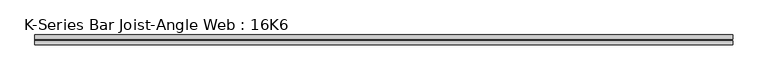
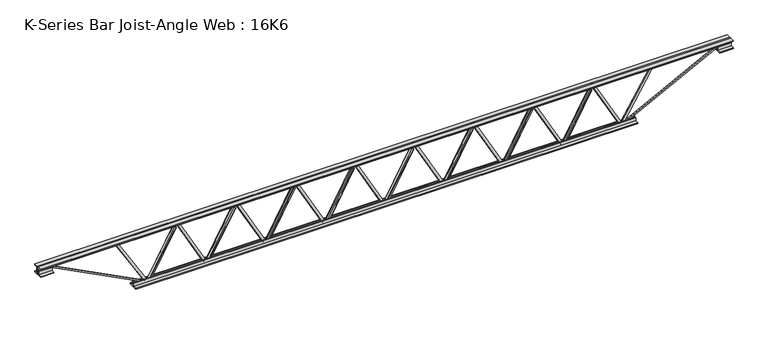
"""IFC4 building model written with IfcOpenShell, lengths in millimetres: beam geometry, K-Series Bar Joist-Angle Web : 16K6."""

from ifc_helpers import new_model, si_unit, frame, origin, place, context, project, spatial, polyline, outline, extrude, faceted_brep, source, transform, mapped, element, save


def k_series_bar_joist_angle_web_16k6_b8d877ef(model_context):
    return source(origin(), model_context, "Body", "SolidModel", [
        extrude(outline(polyline([(-4.75, 4.7625001), (-4.75, 0.0), (-17.45, 0.0), (-17.45, 4.7625001), (-4.75, 4.7625001)])), frame((1299.3314531, 0.0, -164.9), z_axis=(-0.48142361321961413, 0.0, 0.8764880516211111), x_axis=(0.0, -1.0, 0.0)), (0.0, 0.0, 1.0), 376.2743821),
        extrude(outline(polyline([(-199.825, 1330.5), (-180.775, 1330.5), (-180.775, 1329.7854905), (199.825, 1120.7354905), (199.825, 1102.4), (180.775, 1102.4), (180.775, 1109.4645095), (-199.825, 1318.5145095), (-199.825, 1330.5)])), frame((0.0, 0.0, 0.0), z_axis=(0.0, 1.0, 0.0), x_axis=(0.0, 0.0, 1.0)), (0.0, 0.0, 1.0), 4.75),
        faceted_brep([(887.0, 0.0, -180.775), (887.0, 0.0, -199.825), (887.0, -4.75, -199.825), (887.0, -4.75, -180.775), (887.7145095, 0.0, -180.775), (1096.7645095, 0.0, 199.825), (1115.1, 0.0, 199.825), (1115.1, 0.0, 180.775), (1108.0354905, 0.0, 180.775), (898.9854905, 0.0, -199.825), (898.9854905, -4.75, -199.825), (918.1685469, -4.75, -164.9), (913.9942725, -4.75, -162.60722), (1095.1416451, -4.75, 167.19278), (1099.3159194, -4.75, 164.9), (1108.0354905, -4.75, 180.775), (1115.1, -4.75, 180.775), (1115.1, -4.75, 199.825), (1096.7645095, -4.75, 199.825), (887.7145095, -4.75, -180.775), (1099.3159194, -17.4625, 164.9), (918.1685469, -17.4625, -164.9), (913.9942725, -17.4625, -162.60722), (1095.1416451, -17.4625, 167.19278)], [[[0, 1, 2, 3]], [[1, 0, 4, 5, 6, 7, 8, 9]], [[2, 1, 9, 10]], [[3, 2, 10, 11, 12, 13, 14, 15, 16, 17, 18, 19]], [[0, 3, 19, 4]], [[9, 8, 15, 14, 20, 21, 11, 10]], [[5, 4, 19, 18]], [[7, 6, 17, 16]], [[8, 7, 16, 15]], [[6, 5, 18, 17]], [[21, 22, 12, 11]], [[20, 14, 13, 23]], [[22, 21, 20, 23]], [[12, 22, 23, 13]]]),
        extrude(outline(polyline([(-4.75, 4.7625001), (-4.75, 0.0), (-17.45, 0.0), (-17.45, 4.7625001), (-4.75, 4.7625001)])), frame((855.8314531, 0.0, -164.9), z_axis=(-0.48142361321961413, 0.0, 0.8764880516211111), x_axis=(0.0, -1.0, 0.0)), (0.0, 0.0, 1.0), 376.2743821),
        extrude(outline(polyline([(-199.825, 887.0), (-180.775, 887.0), (-180.775, 886.2854905), (199.825, 677.2354905), (199.825, 658.9), (180.775, 658.9), (180.775, 665.9645095), (-199.825, 875.0145095), (-199.825, 887.0)])), frame((0.0, 0.0, 0.0), z_axis=(0.0, 1.0, 0.0), x_axis=(0.0, 0.0, 1.0)), (0.0, 0.0, 1.0), 4.75),
        faceted_brep([(443.5, 0.0, -180.775), (443.5, 0.0, -199.825), (443.5, -4.75, -199.825), (443.5, -4.75, -180.775), (444.2145095, 0.0, -180.775), (653.2645095, 0.0, 199.825), (671.6, 0.0, 199.825), (671.6, 0.0, 180.775), (664.5354905, 0.0, 180.775), (455.4854905, 0.0, -199.825), (455.4854905, -4.75, -199.825), (474.6685469, -4.75, -164.9), (470.4942725, -4.75, -162.60722), (651.6416451, -4.75, 167.19278), (655.8159194, -4.75, 164.9), (664.5354905, -4.75, 180.775), (671.6, -4.75, 180.775), (671.6, -4.75, 199.825), (653.2645095, -4.75, 199.825), (444.2145095, -4.75, -180.775), (655.8159194, -17.4625, 164.9), (474.6685469, -17.4625, -164.9), (470.4942725, -17.4625, -162.60722), (651.6416451, -17.4625, 167.19278)], [[[0, 1, 2, 3]], [[1, 0, 4, 5, 6, 7, 8, 9]], [[2, 1, 9, 10]], [[3, 2, 10, 11, 12, 13, 14, 15, 16, 17, 18, 19]], [[0, 3, 19, 4]], [[9, 8, 15, 14, 20, 21, 11, 10]], [[5, 4, 19, 18]], [[7, 6, 17, 16]], [[8, 7, 16, 15]], [[6, 5, 18, 17]], [[21, 22, 12, 11]], [[20, 14, 13, 23]], [[22, 21, 20, 23]], [[12, 22, 23, 13]]]),
        extrude(outline(polyline([(-4.75, 4.7625001), (-4.75, 0.0), (-17.45, 0.0), (-17.45, 4.7625001), (-4.75, 4.7625001)])), frame((412.3314531, 0.0, -164.9), z_axis=(-0.48142361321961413, 0.0, 0.8764880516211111), x_axis=(0.0, -1.0, 0.0)), (0.0, 0.0, 1.0), 376.2743821),
        extrude(outline(polyline([(-199.825, 443.5), (-180.775, 443.5), (-180.775, 442.7854905), (199.825, 233.7354905), (199.825, 215.4), (180.775, 215.4), (180.775, 222.4645095), (-199.825, 431.5145095), (-199.825, 443.5)])), frame((0.0, 0.0, 0.0), z_axis=(0.0, 1.0, 0.0), x_axis=(0.0, 0.0, 1.0)), (0.0, 0.0, 1.0), 4.75),
        faceted_brep([(0.0, 0.0, -180.775), (0.0, 0.0, -199.825), (0.0, -4.75, -199.825), (0.0, -4.75, -180.775), (0.7145095, 0.0, -180.775), (209.7645095, 0.0, 199.825), (228.1, 0.0, 199.825), (228.1, 0.0, 180.775), (221.0354905, 0.0, 180.775), (11.9854905, 0.0, -199.825), (11.9854905, -4.75, -199.825), (31.1685469, -4.75, -164.9), (26.9942725, -4.75, -162.60722), (208.1416451, -4.75, 167.19278), (212.3159194, -4.75, 164.9), (221.0354905, -4.75, 180.775), (228.1, -4.75, 180.775), (228.1, -4.75, 199.825), (209.7645095, -4.75, 199.825), (0.7145095, -4.75, -180.775), (212.3159194, -17.4625, 164.9), (31.1685469, -17.4625, -164.9), (26.9942725, -17.4625, -162.60722), (208.1416451, -17.4625, 167.19278)], [[[0, 1, 2, 3]], [[1, 0, 4, 5, 6, 7, 8, 9]], [[2, 1, 9, 10]], [[3, 2, 10, 11, 12, 13, 14, 15, 16, 17, 18, 19]], [[0, 3, 19, 4]], [[9, 8, 15, 14, 20, 21, 11, 10]], [[5, 4, 19, 18]], [[7, 6, 17, 16]], [[8, 7, 16, 15]], [[6, 5, 18, 17]], [[21, 22, 12, 11]], [[20, 14, 13, 23]], [[22, 21, 20, 23]], [[12, 22, 23, 13]]]),
        extrude(outline(polyline([(-4.75, 4.7625001), (-4.75, 0.0), (-17.45, 0.0), (-17.45, 4.7625001), (-4.75, 4.7625001)])), frame((-31.1685469, 0.0, -164.9), z_axis=(-0.48142361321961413, 0.0, 0.8764880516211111), x_axis=(0.0, -1.0, 0.0)), (0.0, 0.0, 1.0), 376.2743821),
        extrude(outline(polyline([(-199.825, 0.0), (-180.775, 0.0), (-180.775, -0.7145095), (199.825, -209.7645095), (199.825, -228.1), (180.775, -228.1), (180.775, -221.0354905), (-199.825, -11.9854905), (-199.825, 0.0)])), frame((0.0, 0.0, 0.0), z_axis=(0.0, 1.0, 0.0), x_axis=(0.0, 0.0, 1.0)), (0.0, 0.0, 1.0), 4.75),
        faceted_brep([(-443.5, 0.0, -180.775), (-443.5, 0.0, -199.825), (-443.5, -4.75, -199.825), (-443.5, -4.75, -180.775), (-442.7854905, 0.0, -180.775), (-233.7354905, 0.0, 199.825), (-215.4, 0.0, 199.825), (-215.4, 0.0, 180.775), (-222.4645095, 0.0, 180.775), (-431.5145095, 0.0, -199.825), (-431.5145095, -4.75, -199.825), (-412.3314531, -4.75, -164.9), (-416.5057275, -4.75, -162.60722), (-235.3583549, -4.75, 167.19278), (-231.1840806, -4.75, 164.9), (-222.4645095, -4.75, 180.775), (-215.4, -4.75, 180.775), (-215.4, -4.75, 199.825), (-233.7354905, -4.75, 199.825), (-442.7854905, -4.75, -180.775), (-231.1840806, -17.4625, 164.9), (-412.3314531, -17.4625, -164.9), (-416.5057275, -17.4625, -162.60722), (-235.3583549, -17.4625, 167.19278)], [[[0, 1, 2, 3]], [[1, 0, 4, 5, 6, 7, 8, 9]], [[2, 1, 9, 10]], [[3, 2, 10, 11, 12, 13, 14, 15, 16, 17, 18, 19]], [[0, 3, 19, 4]], [[9, 8, 15, 14, 20, 21, 11, 10]], [[5, 4, 19, 18]], [[7, 6, 17, 16]], [[8, 7, 16, 15]], [[6, 5, 18, 17]], [[21, 22, 12, 11]], [[20, 14, 13, 23]], [[22, 21, 20, 23]], [[12, 22, 23, 13]]]),
        extrude(outline(polyline([(-4.75, 4.7625001), (-4.75, 0.0), (-17.45, 0.0), (-17.45, 4.7625001), (-4.75, 4.7625001)])), frame((-474.6685469, 0.0, -164.9), z_axis=(-0.48142361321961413, 0.0, 0.8764880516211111), x_axis=(0.0, -1.0, 0.0)), (0.0, 0.0, 1.0), 376.2743821),
        extrude(outline(polyline([(-199.825, -443.5), (-180.775, -443.5), (-180.775, -444.2145095), (199.825, -653.2645095), (199.825, -671.6), (180.775, -671.6), (180.775, -664.5354905), (-199.825, -455.4854905), (-199.825, -443.5)])), frame((0.0, 0.0, 0.0), z_axis=(0.0, 1.0, 0.0), x_axis=(0.0, 0.0, 1.0)), (0.0, 0.0, 1.0), 4.75),
        faceted_brep([(-887.0, 0.0, -180.775), (-887.0, 0.0, -199.825), (-887.0, -4.75, -199.825), (-887.0, -4.75, -180.775), (-886.2854905, 0.0, -180.775), (-677.2354905, 0.0, 199.825), (-658.9, 0.0, 199.825), (-658.9, 0.0, 180.775), (-665.9645095, 0.0, 180.775), (-875.0145095, 0.0, -199.825), (-875.0145095, -4.75, -199.825), (-855.8314531, -4.75, -164.9), (-860.0057275, -4.75, -162.60722), (-678.8583549, -4.75, 167.19278), (-674.6840806, -4.75, 164.9), (-665.9645095, -4.75, 180.775), (-658.9, -4.75, 180.775), (-658.9, -4.75, 199.825), (-677.2354905, -4.75, 199.825), (-886.2854905, -4.75, -180.775), (-674.6840806, -17.4625, 164.9), (-855.8314531, -17.4625, -164.9), (-860.0057275, -17.4625, -162.60722), (-678.8583549, -17.4625, 167.19278)], [[[0, 1, 2, 3]], [[1, 0, 4, 5, 6, 7, 8, 9]], [[2, 1, 9, 10]], [[3, 2, 10, 11, 12, 13, 14, 15, 16, 17, 18, 19]], [[0, 3, 19, 4]], [[9, 8, 15, 14, 20, 21, 11, 10]], [[5, 4, 19, 18]], [[7, 6, 17, 16]], [[8, 7, 16, 15]], [[6, 5, 18, 17]], [[21, 22, 12, 11]], [[20, 14, 13, 23]], [[22, 21, 20, 23]], [[12, 22, 23, 13]]]),
        extrude(outline(polyline([(-4.75, 4.7625001), (-4.75, 0.0), (-17.45, 0.0), (-17.45, 4.7625001), (-4.75, 4.7625001)])), frame((-918.1685469, 0.0, -164.9), z_axis=(-0.48142361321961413, 0.0, 0.8764880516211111), x_axis=(0.0, -1.0, 0.0)), (0.0, 0.0, 1.0), 376.2743821),
        extrude(outline(polyline([(-199.825, -887.0), (-180.775, -887.0), (-180.775, -887.7145095), (199.825, -1096.7645095), (199.825, -1115.1), (180.775, -1115.1), (180.775, -1108.0354905), (-199.825, -898.9854905), (-199.825, -887.0)])), frame((0.0, 0.0, 0.0), z_axis=(0.0, 1.0, 0.0), x_axis=(0.0, 0.0, 1.0)), (0.0, 0.0, 1.0), 4.75),
        faceted_brep([(-1330.5, 0.0, -180.775), (-1330.5, 0.0, -199.825), (-1330.5, -4.75, -199.825), (-1330.5, -4.75, -180.775), (-1329.7854905, 0.0, -180.775), (-1120.7354905, 0.0, 199.825), (-1102.4, 0.0, 199.825), (-1102.4, 0.0, 180.775), (-1109.4645095, 0.0, 180.775), (-1318.5145095, 0.0, -199.825), (-1318.5145095, -4.75, -199.825), (-1299.3314531, -4.75, -164.9), (-1303.5057275, -4.75, -162.60722), (-1122.3583549, -4.75, 167.19278), (-1118.1840806, -4.75, 164.9), (-1109.4645095, -4.75, 180.775), (-1102.4, -4.75, 180.775), (-1102.4, -4.75, 199.825), (-1120.7354905, -4.75, 199.825), (-1329.7854905, -4.75, -180.775), (-1118.1840806, -17.4625, 164.9), (-1299.3314531, -17.4625, -164.9), (-1303.5057275, -17.4625, -162.60722), (-1122.3583549, -17.4625, 167.19278)], [[[0, 1, 2, 3]], [[1, 0, 4, 5, 6, 7, 8, 9]], [[2, 1, 9, 10]], [[3, 2, 10, 11, 12, 13, 14, 15, 16, 17, 18, 19]], [[0, 3, 19, 4]], [[9, 8, 15, 14, 20, 21, 11, 10]], [[5, 4, 19, 18]], [[7, 6, 17, 16]], [[8, 7, 16, 15]], [[6, 5, 18, 17]], [[21, 22, 12, 11]], [[20, 14, 13, 23]], [[22, 21, 20, 23]], [[12, 22, 23, 13]]]),
        extrude(outline(polyline([(-4.75, 4.7625001), (-4.75, 0.0), (-17.45, 0.0), (-17.45, 4.7625001), (-4.75, 4.7625001)])), frame((1742.8314531, 0.0, -164.9), z_axis=(-0.48142361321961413, 0.0, 0.8764880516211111), x_axis=(0.0, -1.0, 0.0)), (0.0, 0.0, 1.0), 376.2743821),
        extrude(outline(polyline([(-199.825, 1774.0), (-180.775, 1774.0), (-180.775, 1773.2854905), (199.825, 1564.2354905), (199.825, 1545.9), (180.775, 1545.9), (180.775, 1552.9645095), (-199.825, 1762.0145095), (-199.825, 1774.0)])), frame((0.0, 0.0, 0.0), z_axis=(0.0, 1.0, 0.0), x_axis=(0.0, 0.0, 1.0)), (0.0, 0.0, 1.0), 4.75),
        faceted_brep([(1330.5, 0.0, -180.775), (1330.5, 0.0, -199.825), (1330.5, -4.75, -199.825), (1330.5, -4.75, -180.775), (1331.2145095, 0.0, -180.775), (1540.2645095, 0.0, 199.825), (1558.6, 0.0, 199.825), (1558.6, 0.0, 180.775), (1551.5354905, 0.0, 180.775), (1342.4854905, 0.0, -199.825), (1342.4854905, -4.75, -199.825), (1361.6685469, -4.75, -164.9), (1357.4942725, -4.75, -162.60722), (1538.6416451, -4.75, 167.19278), (1542.8159194, -4.75, 164.9), (1551.5354905, -4.75, 180.775), (1558.6, -4.75, 180.775), (1558.6, -4.75, 199.825), (1540.2645095, -4.75, 199.825), (1331.2145095, -4.75, -180.775), (1542.8159194, -17.4625, 164.9), (1361.6685469, -17.4625, -164.9), (1357.4942725, -17.4625, -162.60722), (1538.6416451, -17.4625, 167.19278)], [[[0, 1, 2, 3]], [[1, 0, 4, 5, 6, 7, 8, 9]], [[2, 1, 9, 10]], [[3, 2, 10, 11, 12, 13, 14, 15, 16, 17, 18, 19]], [[0, 3, 19, 4]], [[9, 8, 15, 14, 20, 21, 11, 10]], [[5, 4, 19, 18]], [[7, 6, 17, 16]], [[8, 7, 16, 15]], [[6, 5, 18, 17]], [[21, 22, 12, 11]], [[20, 14, 13, 23]], [[22, 21, 20, 23]], [[12, 22, 23, 13]]]),
        extrude(outline(polyline([(-4.75, 4.7625001), (-4.75, 0.0), (-17.45, 0.0), (-17.45, 4.7625001), (-4.75, 4.7625001)])), frame((-1361.6685469, 0.0, -164.9), z_axis=(-0.48142361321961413, 0.0, 0.8764880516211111), x_axis=(0.0, -1.0, 0.0)), (0.0, 0.0, 1.0), 376.2743821),
        extrude(outline(polyline([(-199.825, -1330.5), (-180.775, -1330.5), (-180.775, -1331.2145095), (199.825, -1540.2645095), (199.825, -1558.6), (180.775, -1558.6), (180.775, -1551.5354905), (-199.825, -1342.4854905), (-199.825, -1330.5)])), frame((0.0, 0.0, 0.0), z_axis=(0.0, 1.0, 0.0), x_axis=(0.0, 0.0, 1.0)), (0.0, 0.0, 1.0), 4.75),
        faceted_brep([(-1774.0, 0.0, -180.775), (-1774.0, 0.0, -199.825), (-1774.0, -4.75, -199.825), (-1774.0, -4.75, -180.775), (-1773.2854905, 0.0, -180.775), (-1564.2354905, 0.0, 199.825), (-1545.9, 0.0, 199.825), (-1545.9, 0.0, 180.775), (-1552.9645095, 0.0, 180.775), (-1762.0145095, 0.0, -199.825), (-1762.0145095, -4.75, -199.825), (-1742.8314531, -4.75, -164.9), (-1747.0057275, -4.75, -162.60722), (-1565.8583549, -4.75, 167.19278), (-1561.6840806, -4.75, 164.9), (-1552.9645095, -4.75, 180.775), (-1545.9, -4.75, 180.775), (-1545.9, -4.75, 199.825), (-1564.2354905, -4.75, 199.825), (-1773.2854905, -4.75, -180.775), (-1561.6840806, -17.4625, 164.9), (-1742.8314531, -17.4625, -164.9), (-1747.0057275, -17.4625, -162.60722), (-1565.8583549, -17.4625, 167.19278)], [[[0, 1, 2, 3]], [[1, 0, 4, 5, 6, 7, 8, 9]], [[2, 1, 9, 10]], [[3, 2, 10, 11, 12, 13, 14, 15, 16, 17, 18, 19]], [[0, 3, 19, 4]], [[9, 8, 15, 14, 20, 21, 11, 10]], [[5, 4, 19, 18]], [[7, 6, 17, 16]], [[8, 7, 16, 15]], [[6, 5, 18, 17]], [[21, 22, 12, 11]], [[20, 14, 13, 23]], [[22, 21, 20, 23]], [[12, 22, 23, 13]]]),
        extrude(outline(polyline([(4.75, 203.0), (36.75, 203.0), (36.75, 196.5), (11.25, 196.5), (11.25, 171.0), (4.75, 171.0), (4.75, 203.0)])), frame((-2586.0, 0.0, 0.0), z_axis=(1.0, 0.0, 0.0), x_axis=(0.0, 1.0, 0.0)), (0.0, 0.0, 1.0), 5172.0),
        extrude(outline(polyline([(-4.75, 203.0), (-4.75, 171.0), (-11.25, 171.0), (-11.25, 196.5), (-36.75, 196.5), (-36.75, 203.0), (-4.75, 203.0)])), frame((-2586.0, 0.0, 0.0), z_axis=(1.0, 0.0, 0.0), x_axis=(0.0, 1.0, 0.0)), (0.0, 0.0, 1.0), 5172.0),
        extrude(outline(polyline([(4.75, -203.0), (4.75, -171.0), (11.25, -171.0), (11.25, -196.5), (36.75, -196.5), (36.75, -203.0), (4.75, -203.0)])), frame((-1874.0, 0.0, 0.0), z_axis=(1.0, 0.0, 0.0), x_axis=(0.0, 1.0, 0.0)), (0.0, 0.0, 1.0), 3748.0),
        extrude(outline(polyline([(-4.75, -203.0), (-36.75, -203.0), (-36.75, -196.5), (-11.25, -196.5), (-11.25, -171.0), (-4.75, -171.0), (-4.75, -203.0)])), frame((-1874.0, 0.0, 0.0), z_axis=(1.0, 0.0, 0.0), x_axis=(0.0, 1.0, 0.0)), (0.0, 0.0, 1.0), 3748.0),
        extrude(outline(polyline([(4.75, 139.5), (4.75, 171.0), (11.25, 171.0), (11.25, 146.0), (36.75, 146.0), (36.75, 139.5), (4.75, 139.5)])), frame((2486.0, 0.0, 0.0), z_axis=(1.0, 0.0, 0.0), x_axis=(0.0, 1.0, 0.0)), (0.0, 0.0, 1.0), 100.0),
        extrude(outline(polyline([(-4.75, 139.5), (-36.75, 139.5), (-36.75, 146.0), (-11.25, 146.0), (-11.25, 171.0), (-4.75, 171.0), (-4.75, 139.5)])), frame((2486.0, 0.0, 0.0), z_axis=(1.0, 0.0, 0.0), x_axis=(0.0, 1.0, 0.0)), (0.0, 0.0, 1.0), 100.0),
        extrude(outline(polyline([(-4.75, 139.5), (-36.75, 139.5), (-36.75, 146.0), (-11.25, 146.0), (-11.25, 171.0), (-4.75, 171.0), (-4.75, 139.5)])), frame((-2586.0, 0.0, 0.0), z_axis=(1.0, 0.0, 0.0), x_axis=(0.0, 1.0, 0.0)), (0.0, 0.0, 1.0), 100.0),
        extrude(outline(polyline([(36.75, 139.5), (4.75, 139.5), (4.75, 171.0), (11.25, 171.0), (11.25, 146.0), (36.75, 146.0), (36.75, 139.5)])), frame((-2586.0, 0.0, 0.0), z_axis=(1.0, 0.0, 0.0), x_axis=(0.0, 1.0, 0.0)), (0.0, 0.0, 1.0), 100.0),
        extrude(outline(polyline([(193.9566712, -2015.7071429), (174.9066712, -2015.7071429), (174.9066712, -2008.1199315), (-201.3124385, -1781.7487717), (-191.4908944, -1765.4257888), (193.9566712, -1997.3497134), (193.9566712, -2015.7071429)])), frame((0.0, 0.0, 0.0), z_axis=(0.0, 1.0, 0.0), x_axis=(0.0, 0.0, 1.0)), (0.0, 0.0, 1.0), 4.7625),
        extrude(outline(polyline([(-4.7625, -10.5646146), (-4.7625, 8.4853854), (0.0, 8.4853854), (0.0, -10.5646146), (-4.7625, -10.5646146)])), frame((1774.0, 0.0, -196.65), z_axis=(0.5164809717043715, 0.0, 0.8562986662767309), x_axis=(0.0, -1.0, 0.0)), (0.0, 0.0, 1.0), 429.3478601),
        extrude(outline(polyline([(-200.8705467, -1776.1793315), (-192.4294533, -1771.8206685), (175.75, -2484.8460208), (175.75, -2586.0), (166.25, -2586.0), (166.25, -2487.1539792), (-200.8705467, -1776.1793315)])), frame((0.0, -4.75, 0.0), z_axis=(0.0, 1.0, 0.0), x_axis=(0.0, 0.0, 1.0)), (0.0, 0.0, 1.0), 9.5),
        extrude(outline(polyline([(0.0, -9.5), (0.0, 0.0), (801.3179909, 0.0), (801.3179909, -9.5), (0.0, -9.5)])), frame((2488.1793315, -4.75, 166.7794533), z_axis=(-0.4588066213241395, 0.0, 0.888536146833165), x_axis=(-0.888536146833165, 0.0, -0.4588066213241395)), (0.0, 0.0, 1.0), 9.5),
    ])


if __name__ == "__main__":
    model = new_model("IFC4")
    model_context = context("Model", 3, world=origin())
    ifc_project = project(units=[si_unit("LENGTHUNIT", "METRE", prefix="MILLI")], contexts=[model_context])
    site = spatial("IfcSite", under=ifc_project)
    building = spatial("IfcBuilding", under=site)
    placement = place(None, origin())
    k_series_bar_joist_angle_web_16k6_shape = k_series_bar_joist_angle_web_16k6_b8d877ef(model_context)
    element("IfcBeam", 1, ObjectType="K-Series Bar Joist-Angle Web : 16K6", at=placement, inside=building, context=model_context, shape_type="MappedRepresentation", body=[
        mapped(k_series_bar_joist_angle_web_16k6_shape, transform((0.0, 0.0, 0.0), x_axis=(1.0, 0.0, 0.0), y_axis=(0.0, 1.0, 0.0), z_axis=(0.0, 0.0, 1.0))),
    ])
    save(model, "model.ifc")
